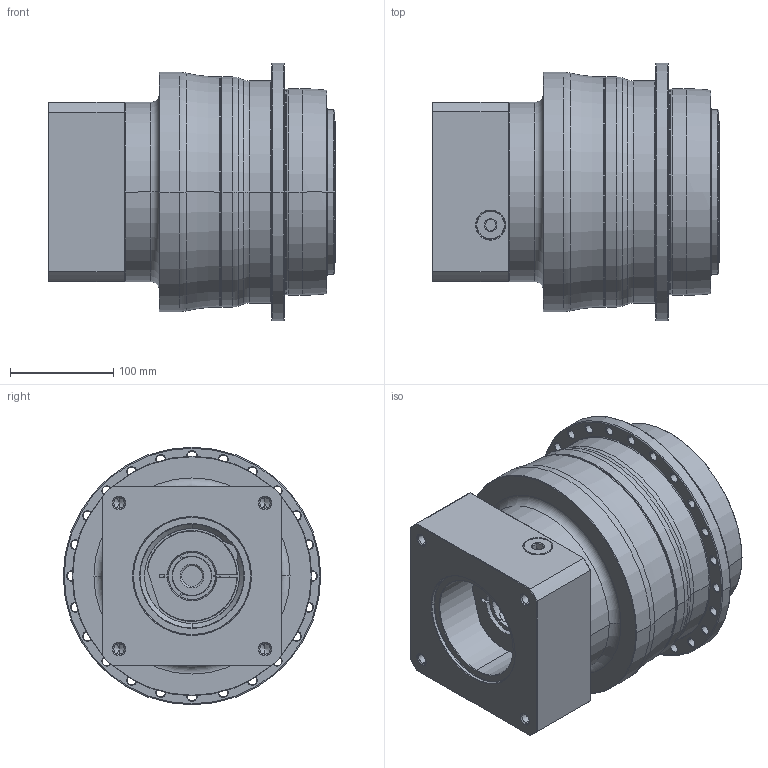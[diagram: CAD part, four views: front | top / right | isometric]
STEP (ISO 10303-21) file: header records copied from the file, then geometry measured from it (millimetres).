
FILE_DESCRIPTION((''),'2;1');
FILE_NAME('AP200_2ST_38-P0409910201_ASM','2018-05-29T',('d01226'),(''),'PRO/ENGINEER BY PARAMETRIC TECHNOLOGY CORPORATION, 2008410','PRO/ENGINEER BY PARAMETRIC TECHNOLOGY CORPORATION, 2008410','');
FILE_SCHEMA(('CONFIG_CONTROL_DESIGN'));
Length unit declared in the file: millimetre
Products named in the file (9): P0278601003; P0359601103; P1317610401; P0503900012; P0912554001; P1211600001; P0409910201; 21711422019; AP200_2ST_38-P0409910201_ASM
Assembly tree (8 placements, depth 2):
  AP200_2ST_38-P0409910201_ASM
    P0278601003
    P0359601103
    P1317610401
    P0503900012
    P0912554001
    P1211600001
    P0409910201
    21711422019
Bounding box: 278.5 x 249.5 x 249.5 mm (x, y, z)
Volume: 8197216 mm3; surface area: 628499.2 mm2
Topology: 9 solids, 34 shells, 643 faces, 1542 edges, 954 vertices
Faces by surface type: cylinder 272, cone 178, plane 108, torus 71, bspline 14
Entity records: 23817 total; most frequent: CARTESIAN_POINT 8063, DIRECTION 3617, ORIENTED_EDGE 2966, AXIS2_PLACEMENT_3D 1551, EDGE_CURVE 1534, VERTEX_POINT 954, CIRCLE 895, EDGE_LOOP 784
